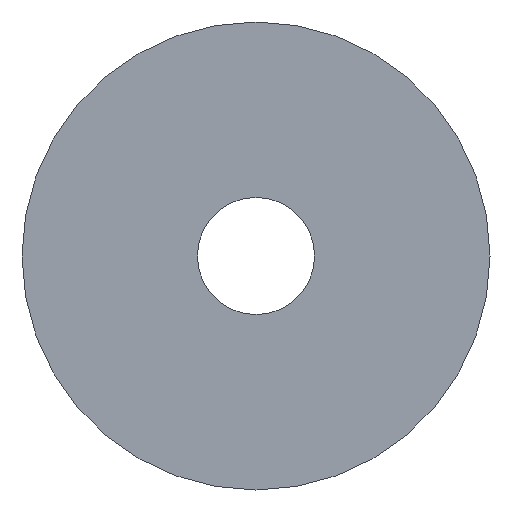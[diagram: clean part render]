
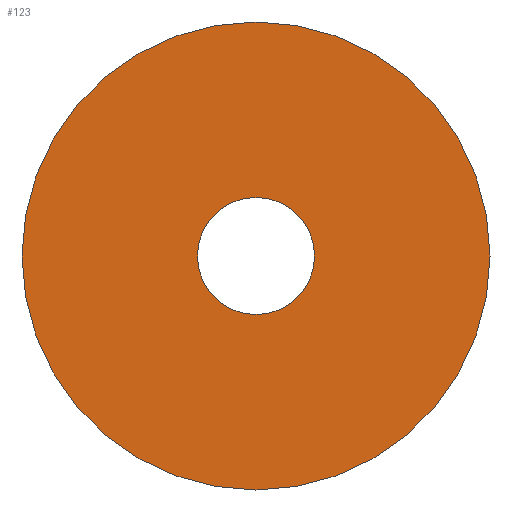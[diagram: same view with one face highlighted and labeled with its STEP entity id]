
A CAD part, front view. The second image highlights one B-rep face of the part: STEP entity #123.
In plain terms, the highlighted planar face has unit normal (0, -1, 0).
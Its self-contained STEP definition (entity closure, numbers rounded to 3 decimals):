
#39 = EDGE_CURVE('',#40,#40,#42,.T.);
#40 = VERTEX_POINT('',#41);
#41 = CARTESIAN_POINT('',(25.,-11.2,-54.528));
#42 = SURFACE_CURVE('',#43,(#48,#60),.PCURVE_S1.);
#43 = CIRCLE('',#44,3.);
#44 = AXIS2_PLACEMENT_3D('',#45,#46,#47);
#45 = CARTESIAN_POINT('',(22.,-11.2,-54.528));
#46 = DIRECTION('',(0.,-1.,0.));
#47 = DIRECTION('',(1.,0.,0.));
#48 = PCURVE('',#49,#54);
#49 = CYLINDRICAL_SURFACE('',#50,3.);
#50 = AXIS2_PLACEMENT_3D('',#51,#52,#53);
#51 = CARTESIAN_POINT('',(22.,-9.3,-54.528));
#52 = DIRECTION('',(0.,-1.,0.));
#53 = DIRECTION('',(1.,0.,0.));
#54 = DEFINITIONAL_REPRESENTATION('',(#55),#59);
#55 = LINE('',#56,#57);
#56 = CARTESIAN_POINT('',(0.,1.9));
#57 = VECTOR('',#58,1.);
#58 = DIRECTION('',(1.,0.));
#59 = ( GEOMETRIC_REPRESENTATION_CONTEXT(2) 
PARAMETRIC_REPRESENTATION_CONTEXT() REPRESENTATION_CONTEXT('2D SPACE',''
  ) );
#60 = PCURVE('',#61,#66);
#61 = PLANE('',#62);
#62 = AXIS2_PLACEMENT_3D('',#63,#64,#65);
#63 = CARTESIAN_POINT('',(22.,-11.2,-54.528));
#64 = DIRECTION('',(0.,-1.,0.));
#65 = DIRECTION('',(1.,0.,0.));
#66 = DEFINITIONAL_REPRESENTATION('',(#67),#71);
#67 = CIRCLE('',#68,3.);
#68 = AXIS2_PLACEMENT_2D('',#69,#70);
#69 = CARTESIAN_POINT('',(0.,0.));
#70 = DIRECTION('',(1.,0.));
#71 = ( GEOMETRIC_REPRESENTATION_CONTEXT(2) 
PARAMETRIC_REPRESENTATION_CONTEXT() REPRESENTATION_CONTEXT('2D SPACE',''
  ) );
#123 = ADVANCED_FACE('',(#124,#127),#61,.T.);
#124 = FACE_BOUND('',#125,.T.);
#125 = EDGE_LOOP('',(#126));
#126 = ORIENTED_EDGE('',*,*,#39,.T.);
#127 = FACE_BOUND('',#128,.T.);
#128 = EDGE_LOOP('',(#129));
#129 = ORIENTED_EDGE('',*,*,#130,.F.);
#130 = EDGE_CURVE('',#131,#131,#133,.T.);
#131 = VERTEX_POINT('',#132);
#132 = CARTESIAN_POINT('',(22.75,-11.2,-54.528));
#133 = SURFACE_CURVE('',#134,(#139,#146),.PCURVE_S1.);
#134 = CIRCLE('',#135,0.75);
#135 = AXIS2_PLACEMENT_3D('',#136,#137,#138);
#136 = CARTESIAN_POINT('',(22.,-11.2,-54.528));
#137 = DIRECTION('',(0.,-1.,0.));
#138 = DIRECTION('',(1.,0.,0.));
#139 = PCURVE('',#61,#140);
#140 = DEFINITIONAL_REPRESENTATION('',(#141),#145);
#141 = CIRCLE('',#142,0.75);
#142 = AXIS2_PLACEMENT_2D('',#143,#144);
#143 = CARTESIAN_POINT('',(0.,0.));
#144 = DIRECTION('',(1.,0.));
#145 = ( GEOMETRIC_REPRESENTATION_CONTEXT(2) 
PARAMETRIC_REPRESENTATION_CONTEXT() REPRESENTATION_CONTEXT('2D SPACE',''
  ) );
#146 = PCURVE('',#147,#152);
#147 = CYLINDRICAL_SURFACE('',#148,0.75);
#148 = AXIS2_PLACEMENT_3D('',#149,#150,#151);
#149 = CARTESIAN_POINT('',(22.,-8.2,-54.528));
#150 = DIRECTION('',(0.,-1.,0.));
#151 = DIRECTION('',(1.,0.,0.));
#152 = DEFINITIONAL_REPRESENTATION('',(#153),#157);
#153 = LINE('',#154,#155);
#154 = CARTESIAN_POINT('',(0.,3.));
#155 = VECTOR('',#156,1.);
#156 = DIRECTION('',(1.,0.));
#157 = ( GEOMETRIC_REPRESENTATION_CONTEXT(2) 
PARAMETRIC_REPRESENTATION_CONTEXT() REPRESENTATION_CONTEXT('2D SPACE',''
  ) );
